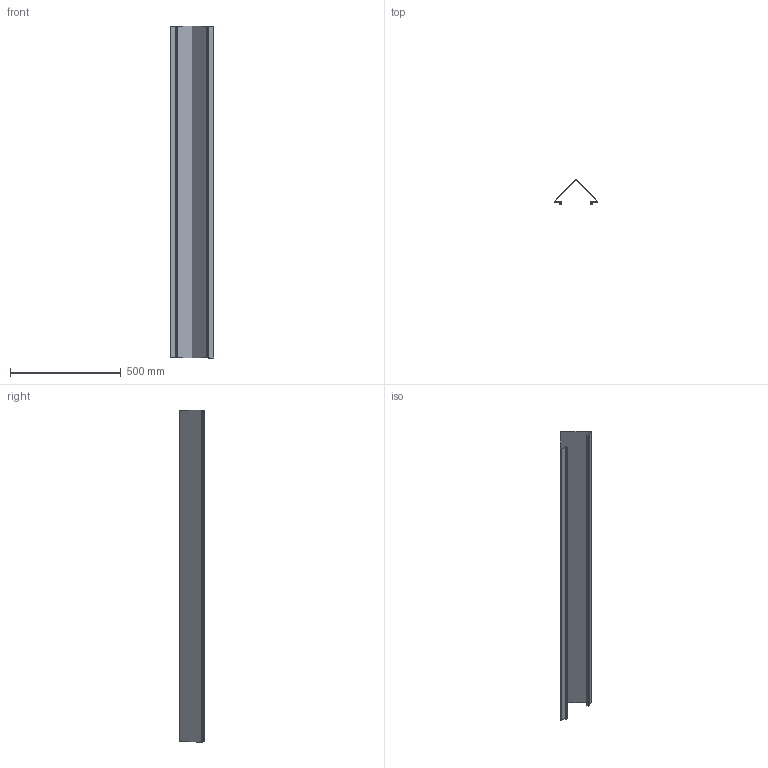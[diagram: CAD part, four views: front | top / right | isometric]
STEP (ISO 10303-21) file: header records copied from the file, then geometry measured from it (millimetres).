
FILE_DESCRIPTION (( 'STEP AP203' ), '1' );
FILE_NAME ('Êðûøêà ñêàòíàÿ.STEP', '2015-04-14T06:23:41', ( 'Talanin' ), ( 'HP' ), 'SwSTEP 2.0', 'SolidWorks 2013', '' );
FILE_SCHEMA (( 'CONFIG_CONTROL_DESIGN' ));
Length unit declared in the file: millimetre
Products named in the file (2): U5.0100.00.00.0 T楊磥兒 瑁v-楊 1_200; Êðûøêà ñêàòíàÿ
Assembly tree (1 placements, depth 2):
  Êðûøêà ñêàòíàÿ
    U5.0100.00.00.0 T楊磥兒 瑁v-楊 1_200
Bounding box: 198.76 x 111.96 x 1500 mm (x, y, z)
Volume: 462183.1 mm3; surface area: 1158499.2 mm2
Topology: 1 solids, 1 shells, 40 faces, 114 edges, 76 vertices
Faces by surface type: cylinder 20, plane 20
Entity records: 1522 total; most frequent: DIRECTION 242, CARTESIAN_POINT 234, ORIENTED_EDGE 228, EDGE_CURVE 114, AXIS2_PLACEMENT_3D 84, VERTEX_POINT 76, VECTOR 74, LINE 74
